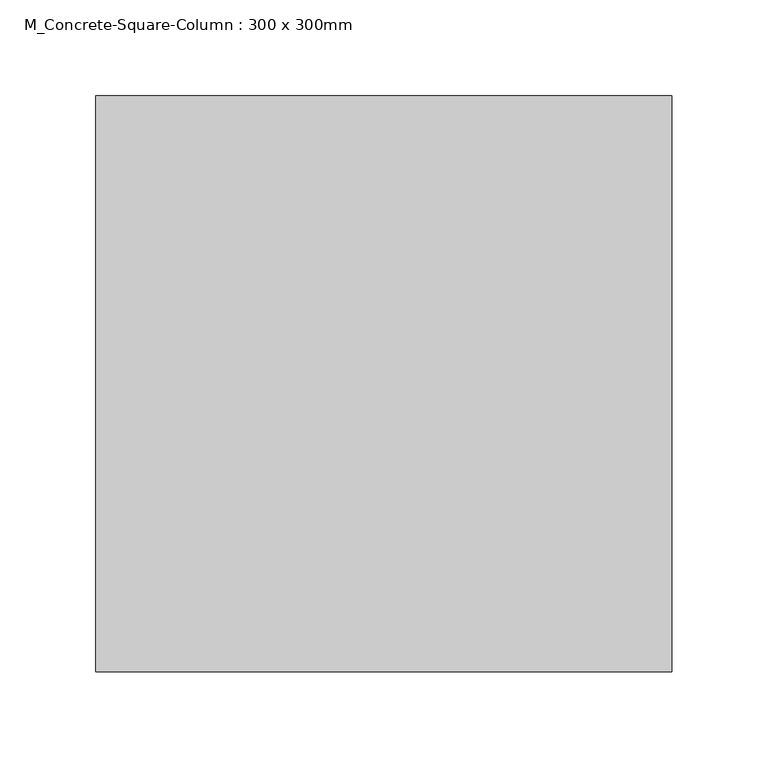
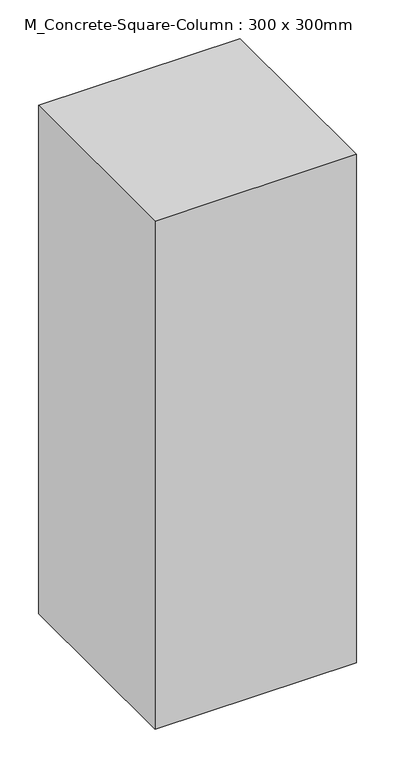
"""IFC4 building model written with IfcOpenShell, lengths in millimetres: column geometry, M_Concrete-Square-Column : 300 x 300mm."""

from ifc_helpers import new_model, si_unit, origin, origin_with_axes, place, context, project, spatial, polyline, outline, extrude, source, transform, mapped, element, save


def m_concrete_square_column_300_x_300mm_03b24b64(model_context):
    return source(origin(), model_context, "Body", "SweptSolid", [
        extrude(outline(polyline([(150.0, 150.0), (150.0, -150.0), (-150.0, -150.0), (-150.0, 150.0), (150.0, 150.0)])), origin_with_axes(), (0.0, 0.0, 1.0), 800.0),
    ])


if __name__ == "__main__":
    model = new_model("IFC4")
    model_context = context("Model", 3, world=origin())
    ifc_project = project(units=[si_unit("LENGTHUNIT", "METRE", prefix="MILLI")], contexts=[model_context])
    site = spatial("IfcSite", under=ifc_project)
    building = spatial("IfcBuilding", under=site)
    placement = place(None, origin())
    m_concrete_square_column_300_x_300mm_shape = m_concrete_square_column_300_x_300mm_03b24b64(model_context)
    element("IfcColumn", 1, ObjectType="M_Concrete-Square-Column : 300 x 300mm", at=placement, inside=building, context=model_context, shape_type="MappedRepresentation", body=[
        mapped(m_concrete_square_column_300_x_300mm_shape, transform((0.0, 0.0, 0.0), x_axis=(1.0, 0.0, 0.0), y_axis=(0.0, 1.0, 0.0), z_axis=(0.0, 0.0, 1.0))),
    ])
    save(model, "model.ifc")
